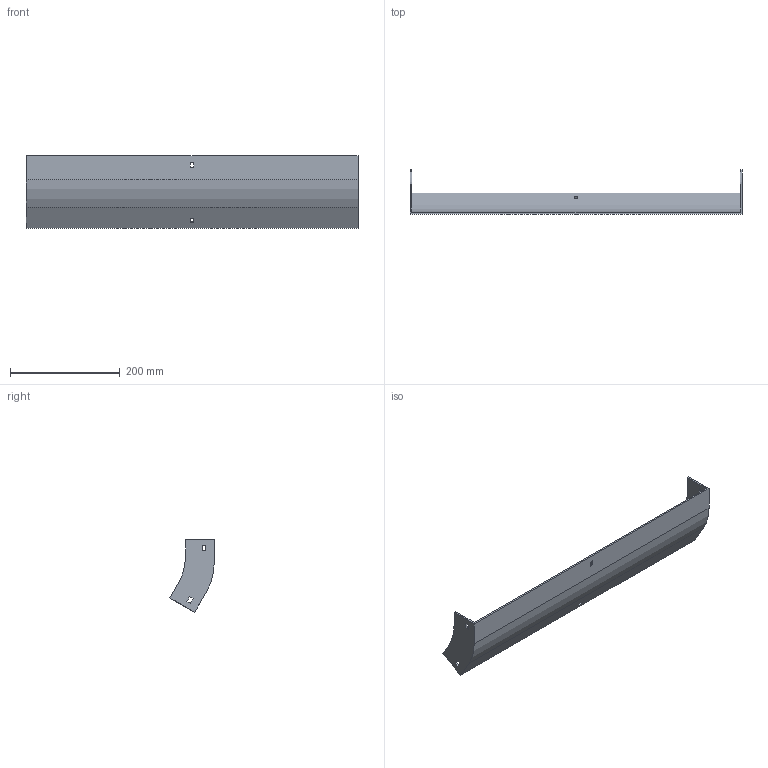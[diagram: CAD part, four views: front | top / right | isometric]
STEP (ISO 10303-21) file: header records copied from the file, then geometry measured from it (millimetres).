
FILE_DESCRIPTION (( 'STEP AP214' ), '1' );
FILE_NAME ('32F1B600.step', '2025-02-21T12:58:20', ( '' ), ( '' ), 'SwSTEP 2.0', 'SolidWorks 2023', '' );
FILE_SCHEMA (( 'AUTOMOTIVE_DESIGN' ));
Length unit declared in the file: millimetre
Products named in the file (1): 32F1B600
Bounding box: 604 x 80.4 x 131.98 mm (x, y, z)
Volume: 336117.8 mm3; surface area: 198460.3 mm2
Topology: 1 solids, 1 shells, 42 faces, 120 edges, 80 vertices
Faces by surface type: plane 38, cylinder 4
Entity records: 1399 total; most frequent: CARTESIAN_POINT 243, ORIENTED_EDGE 240, DIRECTION 214, EDGE_CURVE 120, VECTOR 112, LINE 112, VERTEX_POINT 80, EDGE_LOOP 54
